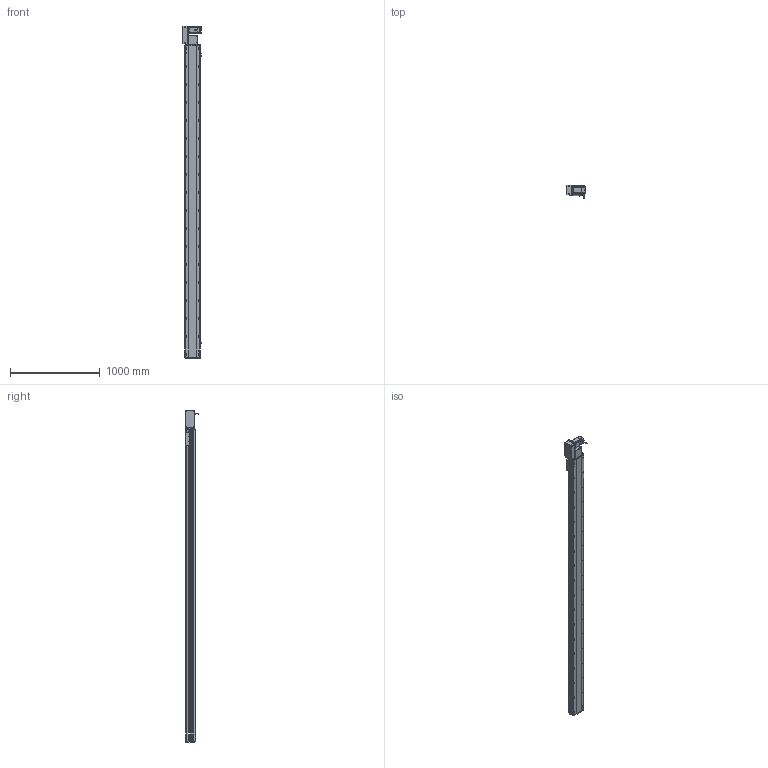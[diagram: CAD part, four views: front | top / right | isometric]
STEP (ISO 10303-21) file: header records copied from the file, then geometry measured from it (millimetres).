
FILE_DESCRIPTION (( 'STEP AP214' ), '1' );
FILE_NAME ('RTB17S-XX-3200-L-M75-C4.STEP', '2025-12-12T00:26:01', ( '' ), ( '' ), 'SwSTEP 2.0', 'SolidWorks 2018', '' );
FILE_SCHEMA (( 'AUTOMOTIVE_DESIGN' ));
Length unit declared in the file: millimetre
Products named in the file (15): RTH13-BL-012覜茼え俋离^RTB17S-賑釱_RTB17S-XX-XX-L-M75-C4; RTB17S-L-001-耜醱啣^RTB17S-XX-XX-L-M75-C4; EE672^RTB17S-XX-XX-L-M75-C4; RTB17S-L-々湍釱蚾饜-750W^RTB17S-XX-XX-L-M75-C4; RMP17S-L-014-T20-P75--々湍釱^RTB17S-L-々湍釱蚾饜-750W_RTB17S-XX-XX-L-M75-C4; RTB22S-GY-018P^RTB17S-L-々湍釱蚾饜-750W_RTB17S-XX-XX-L-M75-C4; RTB17S-XX-3200-L-M75-C4; RTB17S-賑釱^RTB17S-XX-XX-L-M75-C4; RTB17S-L-004-賑釱^RTB17S-賑釱_RTB17S-XX-XX-L-M75-C4; RTB17S-L-007奻裔^RTB17S-XX-XX-L-M75-C4; RTB22S-GY-017P^RTB17S-L-々湍釱蚾饜-750W_RTB17S-XX-XX-L-M75-C4; RTB17-R-011菁釱^RTB17S-XX-XX-L-M75-C4; 750W萇儂^RTB17S-XX-XX-L-M75-C4; RTB22S-GY-005P^RTB17S-L-々湍釱蚾饜-750W_RTB17S-XX-XX-L-M75-C4; RTB22S-GY-008-M75--萇儂啣^RTB17S-L-々湍釱蚾饜-750W_RTB17S-XX-XX-L-M75-C4
Assembly tree (17 placements, depth 3):
  RTB17S-XX-3200-L-M75-C4
    RTB17-R-011菁釱^RTB17S-XX-XX-L-M75-C4
    EE672^RTB17S-XX-XX-L-M75-C4  x3
    RTB17S-L-001-耜醱啣^RTB17S-XX-XX-L-M75-C4
    RTB17S-賑釱^RTB17S-XX-XX-L-M75-C4
      RTB17S-L-004-賑釱^RTB17S-賑釱_RTB17S-XX-XX-L-M75-C4
      RTH13-BL-012覜茼え俋离^RTB17S-賑釱_RTB17S-XX-XX-L-M75-C4
    RTB17S-L-007奻裔^RTB17S-XX-XX-L-M75-C4
    750W萇儂^RTB17S-XX-XX-L-M75-C4
    RTB17S-L-々湍釱蚾饜-750W^RTB17S-XX-XX-L-M75-C4
      RMP17S-L-014-T20-P75--々湍釱^RTB17S-L-々湍釱蚾饜-750W_RTB17S-XX-XX-L-M75-C4
      RTB22S-GY-005P^RTB17S-L-々湍釱蚾饜-750W_RTB17S-XX-XX-L-M75-C4
      RTB22S-GY-017P^RTB17S-L-々湍釱蚾饜-750W_RTB17S-XX-XX-L-M75-C4  x2
      RTB22S-GY-008-M75--萇儂啣^RTB17S-L-々湍釱蚾饜-750W_RTB17S-XX-XX-L-M75-C4
      RTB22S-GY-018P^RTB17S-L-々湍釱蚾饜-750W_RTB17S-XX-XX-L-M75-C4
Bounding box: 210.4 x 152.7 x 3699 mm (x, y, z)
Volume: 25956309.7 mm3; surface area: 4772344 mm2
Topology: 17 solids, 17 shells, 2265 faces, 6376 edges, 4130 vertices
Faces by surface type: plane 992, cylinder 857, bspline 294, cone 110, sphere 8, torus 4
Entity records: 66550 total; most frequent: CARTESIAN_POINT 19840, ORIENTED_EDGE 9596, DIRECTION 8852, EDGE_CURVE 4798, AXIS2_PLACEMENT_3D 3150, VERTEX_POINT 3134, VECTOR 2552, LINE 2552
